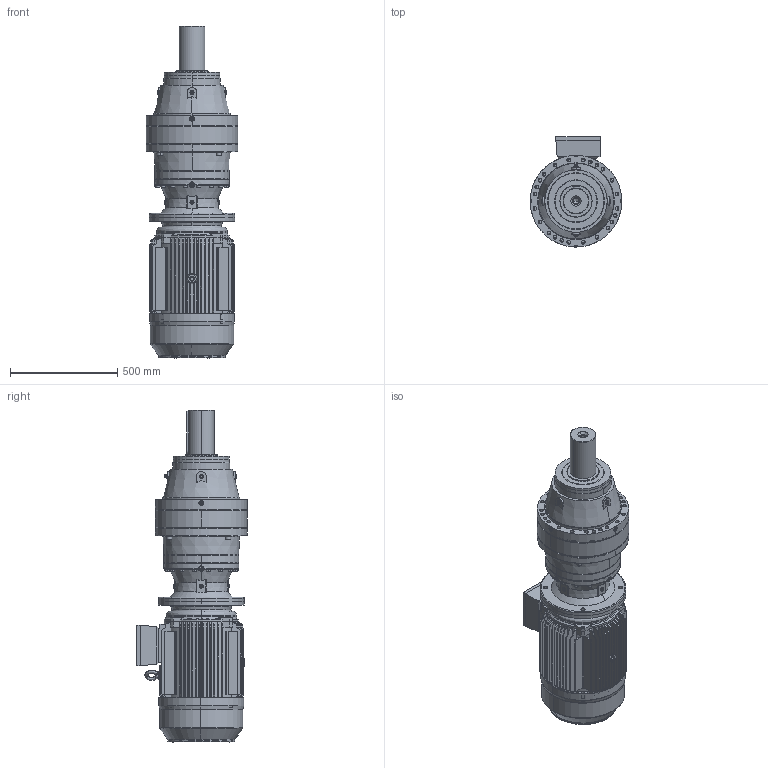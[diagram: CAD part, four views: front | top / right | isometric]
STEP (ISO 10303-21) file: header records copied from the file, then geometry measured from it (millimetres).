
FILE_DESCRIPTION (( 'STEP AP203' ), '1' );
FILE_NAME ('PVL-2902L-HS200-4.STEP', '2019-05-22T08:39:27', ( '' ), ( '' ), 'SwSTEP 2.0', 'SolidWorks 2012', '' );
FILE_SCHEMA (( 'CONFIG_CONTROL_DESIGN' ));
Products named in the file (18): 200-4B5; PVL-2902L-HS200-4; HS200-4-B5; ﾍﾟYE3-200L-4.6.8C+ﾎA+ｳ_-ｼ+､; Plain parallel keys_GB_CONNECTING_PIECE_KEYS_CSK 16X100; Y2-200-4.6.8¦¾Íß¦ð-Ô©Ã_-¼+¤; Y2-200-2.4.6.8ｦｾﾂ-ｩﾃ_-ｼ+､; MN2-200ﾀiﾍ_-ｼ+､; Eyebolts GB_GB_FASTENER_SCREWS_FRS M16-N; Y2-200-4.6.8Ã¦Íß¦ð-Ô©Ã_-¼+¤; Y2-200+ｷﾎｨB5_-ｼ+､; Y2-200-4.6.8-ｦﾈﾁﾂ-ｩﾃ_-ｼ+､; PNL_2902L_0_0_A20_B5_ML49A_FL15A_0_0_0_0_0_0_0_0_0_0_0_M1; FL15A_Varsayìlan; EK2902L_Varsayìlan; P29_Varsayìlan; ML49A_Varsayìlan; 23200B5_Varsayìlan
Assembly tree (17 placements, depth 4):
  PVL-2902L-HS200-4
    PNL_2902L_0_0_A20_B5_ML49A_FL15A_0_0_0_0_0_0_0_0_0_0_0_M1
      P29_Varsayìlan
      23200B5_Varsayìlan
      ML49A_Varsayìlan
      EK2902L_Varsayìlan
      FL15A_Varsayìlan
    HS200-4-B5
      200-4B5
        Y2-200-4.6.8-ｦﾈﾁﾂ-ｩﾃ_-ｼ+､
        MN2-200ﾀiﾍ_-ｼ+､
        Eyebolts GB_GB_FASTENER_SCREWS_FRS M16-N
        Y2-200+ｷﾎｨB5_-ｼ+､
        Y2-200-4.6.8Ã¦Íß¦ð-Ô©Ã_-¼+¤
        ﾍﾟYE3-200L-4.6.8C+ﾎA+ｳ_-ｼ+､
        Y2-200-2.4.6.8ｦｾﾂ-ｩﾃ_-ｼ+､
        Y2-200-4.6.8¦¾Íß¦ð-Ô©Ã_-¼+¤
        Plain parallel keys_GB_CONNECTING_PIECE_KEYS_CSK 16X100
Bounding box: 428 x 515.01 x 1550.2 mm (x, y, z)
Volume: 82351310.4 mm3; surface area: 6152350.2 mm2
Topology: 18 solids, 18 shells, 2668 faces, 6969 edges, 4421 vertices
Faces by surface type: cylinder 947, plane 947, cone 392, bspline 382
Entity records: 107650 total; most frequent: CARTESIAN_POINT 41987, ORIENTED_EDGE 13806, DIRECTION 12897, EDGE_CURVE 6903, AXIS2_PLACEMENT_3D 5054, VERTEX_POINT 4421, EDGE_LOOP 3090, LINE 2789
